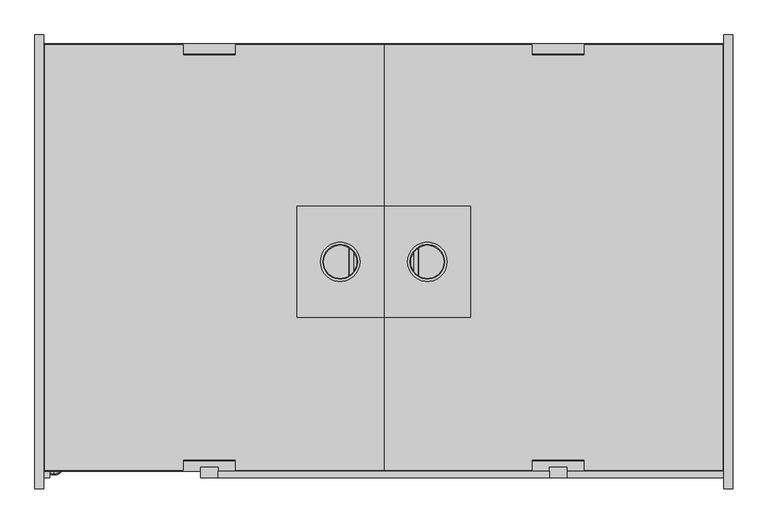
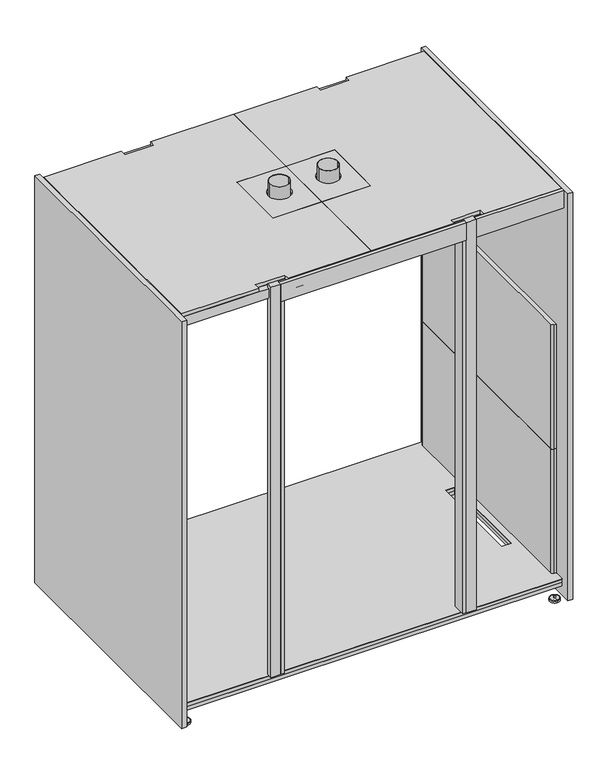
"""IFC4 building model written with IfcOpenShell, lengths in millimetres: furniture geometry, Mobiliário_Mobiliário de Escritório_Cabine Acústica 02 Pessoas - CT 02 PM FV_Marelli : Mobiliário_Mobiliário de Escritório_Cabine Acústica 02 Pessoas - CT 02 PM FV_Marelli."""

from ifc_helpers import new_model, si_unit, point, frame, frame_2d, origin, place, context, project, spatial, polyline, circle_curve, ellipse_curve, trimmed, segment, composite_curve, outline, extrude, faceted_brep, source, transform, mapped, element, save
from ifc_brep_helpers import plane_surface, cylinder_surface, revolved_surface, advanced_brep


def furniture_7d49e289(model_context):
    return source(origin(), model_context, "Body", "SolidModel", [
        extrude(outline(polyline([(525.0, 50.0), (1475.0, 50.0), (1475.0, 32.0), (525.0, 32.0), (525.0, 50.0)])), frame((0.0, 0.0, 2128.5), z_axis=(0.0, 0.0, 1.0), x_axis=(1.0, 0.0, 0.0)), (0.0, 0.0, 1.0), 96.0),
        extrude(outline(polyline([(975.0, 945.0), (975.0, 915.0), (25.0, 915.0), (25.0, 945.0), (975.0, 945.0)])), frame((0.0, 0.0, 2156.5), z_axis=(0.0, 0.0, 1.0), x_axis=(1.0, 0.0, 0.0)), (0.0, 0.0, 1.0), 50.0),
        extrude(outline(polyline([(1945.0, 410.0), (1945.0, 380.0), (25.0, 380.0), (25.0, 410.0), (1945.0, 410.0)])), frame((0.0, 0.0, 2156.5), z_axis=(0.0, 0.0, 1.0), x_axis=(1.0, 0.0, 0.0)), (0.0, 0.0, 1.0), 50.0),
        extrude(outline(polyline([(43.0, 32.0), (25.0, 32.0), (25.0, 102.0), (43.0, 102.0), (43.0, 32.0)])), frame((0.0, 0.0, 114.5), z_axis=(0.0, 0.0, 1.0), x_axis=(1.0, 0.0, 0.0)), (0.0, 0.0, 1.0), 2014.0),
        extrude(outline(polyline([(475.0, 32.0), (475.0, 62.0), (525.0, 62.0), (525.0, 32.0), (475.0, 32.0)])), frame((0.0, 0.0, 114.5), z_axis=(0.0, 0.0, 1.0), x_axis=(1.0, 0.0, 0.0)), (0.0, 0.0, 1.0), 2110.0),
        extrude(outline(polyline([(1525.0, 32.0), (1475.0, 32.0), (1475.0, 62.0), (1525.0, 62.0), (1525.0, 32.0)])), frame((0.0, 0.0, 114.5), z_axis=(0.0, 0.0, 1.0), x_axis=(1.0, 0.0, 0.0)), (0.0, 0.0, 1.0), 2110.0),
        extrude(outline(composite_curve([segment(polyline([(25.0, 102.0), (25.0, 1275.0), (45.5304331, 1254.4695669)]), True, "CONTINUOUS"), segment(trimmed(circle_curve(frame_2d((43.1599032, 1251.4457873)), 3.84222), [point((45.5304331, 1254.4695669))], [point((47.0, 1251.3180705))], False, "CARTESIAN"), True, "CONTINUOUS"), segment(polyline([(47.0, 1251.3180705), (47.0, 1249.6361409), (47.0, 113.0)]), True, "CONTINUOUS"), segment(trimmed(circle_curve(frame_2d((36.0, 113.0)), 11.0), [point((47.0, 113.0))], [point((36.0, 102.0))], False, "CARTESIAN"), True, "CONTINUOUS"), segment(polyline([(36.0, 102.0), (25.0, 102.0)]), True, "CONTINUOUS")], self_intersect=False)), frame((0.0, 0.0, 1459.7), z_axis=(0.0, 0.0, 1.0), x_axis=(1.0, 0.0, 0.0)), (0.0, 0.0, 1.0), 671.8),
        extrude(outline(composite_curve([segment(polyline([(25.0, 102.0), (25.0, 1275.0), (45.5304331, 1254.4695669)]), True, "CONTINUOUS"), segment(trimmed(circle_curve(frame_2d((43.1599032, 1251.4457873)), 3.84222), [point((45.5304331, 1254.4695669))], [point((47.0, 1251.3180705))], False, "CARTESIAN"), True, "CONTINUOUS"), segment(polyline([(47.0, 1251.3180705), (47.0, 113.0)]), True, "CONTINUOUS"), segment(trimmed(circle_curve(frame_2d((36.0, 113.0)), 11.0), [point((47.0, 113.0))], [point((36.0, 102.0))], False, "CARTESIAN"), True, "CONTINUOUS"), segment(polyline([(36.0, 102.0), (25.0, 102.0)]), True, "CONTINUOUS")], self_intersect=False)), frame((0.0, 0.0, 787.1), z_axis=(0.0, 0.0, 1.0), x_axis=(1.0, 0.0, 0.0)), (0.0, 0.0, 1.0), 671.0),
        extrude(outline(composite_curve([segment(polyline([(1975.0, 102.0), (1964.0, 102.0)]), True, "CONTINUOUS"), segment(trimmed(circle_curve(frame_2d((1964.0, 113.0)), 11.0), [point((1964.0, 102.0))], [point((1953.0, 113.0))], False, "CARTESIAN"), True, "CONTINUOUS"), segment(polyline([(1953.0, 113.0), (1953.0, 1251.3180705)]), True, "CONTINUOUS"), segment(trimmed(circle_curve(frame_2d((1956.8400968, 1251.4457873)), 3.84222), [point((1953.0, 1251.3180705))], [point((1954.4695669, 1254.4695669))], False, "CARTESIAN"), True, "CONTINUOUS"), segment(polyline([(1954.4695669, 1254.4695669), (1975.0, 1275.0), (1975.0, 102.0)]), True, "CONTINUOUS")], self_intersect=False)), frame((0.0, 0.0, 787.1), z_axis=(0.0, 0.0, 1.0), x_axis=(1.0, 0.0, 0.0)), (0.0, 0.0, 1.0), 671.0),
        extrude(outline(composite_curve([segment(polyline([(1975.0, 102.0), (1964.0, 102.0)]), True, "CONTINUOUS"), segment(trimmed(circle_curve(frame_2d((1964.0, 113.0)), 11.0), [point((1964.0, 102.0))], [point((1953.0, 113.0))], False, "CARTESIAN"), True, "CONTINUOUS"), segment(polyline([(1953.0, 113.0), (1953.0, 1251.3180705)]), True, "CONTINUOUS"), segment(trimmed(circle_curve(frame_2d((1956.8400968, 1251.4457873)), 3.84222), [point((1953.0, 1251.3180705))], [point((1954.4695669, 1254.4695669))], False, "CARTESIAN"), True, "CONTINUOUS"), segment(polyline([(1954.4695669, 1254.4695669), (1975.0, 1275.0), (1975.0, 102.0)]), True, "CONTINUOUS")], self_intersect=False)), frame((0.0, 0.0, 113.5), z_axis=(0.0, 0.0, 1.0), x_axis=(1.0, 0.0, 0.0)), (0.0, 0.0, 1.0), 672.0),
        extrude(outline(polyline([(575.0, 53.0), (575.0, 83.0), (425.0, 83.0), (425.0, 53.0), (28.0, 53.0), (28.0, 1272.0), (425.0, 1272.0), (425.0, 1242.0), (575.0, 1242.0), (575.0, 1272.0), (1000.0, 1272.0), (1000.0, 810.0), (750.0, 810.0), (750.0, 490.0), (1000.0, 490.0), (1000.0, 53.0), (575.0, 53.0)])), frame((0.0, 0.0, 2206.5), z_axis=(0.0, 0.0, 1.0), x_axis=(1.0, 0.0, 0.0)), (0.0, 0.0, 1.0), 18.0),
        extrude(outline(polyline([(1000.0, 810.0), (1000.0, 490.0), (750.0, 490.0), (750.0, 810.0), (1000.0, 810.0)]), holes=[composite_curve([segment(trimmed(circle_curve(frame_2d((875.0, 650.0)), 56.55), [point((818.45, 650.0))], [point((931.55, 650.0))], True, "CARTESIAN"), True, "CONTINUOUS"), segment(trimmed(circle_curve(frame_2d((875.0, 650.0)), 56.55), [point((931.55, 650.0))], [point((818.45, 650.0))], True, "CARTESIAN"), True, "CONTINUOUS")], self_intersect=False)]), frame((0.0, 0.0, 2206.5), z_axis=(0.0, 0.0, 1.0), x_axis=(1.0, 0.0, 0.0)), (0.0, 0.0, 1.0), 18.0),
        extrude(outline(composite_curve([segment(trimmed(circle_curve(frame_2d((875.0, 650.0)), 78.05), [point((796.95, 650.0))], [point((953.05, 650.0))], False, "CARTESIAN"), True, "CONTINUOUS"), segment(trimmed(circle_curve(frame_2d((875.0, 650.0)), 78.05), [point((953.05, 650.0))], [point((796.95, 650.0))], False, "CARTESIAN"), True, "CONTINUOUS")], self_intersect=False), holes=[composite_curve([segment(trimmed(circle_curve(frame_2d((875.0, 650.0)), 47.3), [point((827.7, 650.0))], [point((922.3, 650.0))], True, "CARTESIAN"), True, "CONTINUOUS"), segment(trimmed(circle_curve(frame_2d((875.0, 650.0)), 47.3), [point((922.3, 650.0))], [point((827.7, 650.0))], True, "CARTESIAN"), True, "CONTINUOUS")], self_intersect=False)]), frame((0.0, 0.0, 2202.9), z_axis=(0.0, 0.0, 1.0), x_axis=(1.0, 0.0, 0.0)), (0.0, 0.0, 1.0), 3.6),
        extrude(outline(composite_curve([segment(trimmed(circle_curve(frame_2d((875.0, 650.0)), 49.25), [point((825.75, 650.0))], [point((924.25, 650.0))], False, "CARTESIAN"), True, "CONTINUOUS"), segment(trimmed(circle_curve(frame_2d((875.0, 650.0)), 49.25), [point((924.25, 650.0))], [point((825.75, 650.0))], False, "CARTESIAN"), True, "CONTINUOUS")], self_intersect=False), holes=[composite_curve([segment(trimmed(circle_curve(frame_2d((875.0, 650.0)), 47.3), [point((922.3, 650.0))], [point((827.7, 650.0))], True, "CARTESIAN"), True, "CONTINUOUS"), segment(trimmed(circle_curve(frame_2d((875.0, 650.0)), 47.3), [point((827.7, 650.0))], [point((922.3, 650.0))], True, "CARTESIAN"), True, "CONTINUOUS")], self_intersect=False)]), frame((0.0, 0.0, 2206.5), z_axis=(0.0, 0.0, 1.0), x_axis=(1.0, 0.0, 0.0)), (0.0, 0.0, 1.0), 80.0),
        extrude(outline(composite_curve([segment(polyline([(1252.9978767, 2109.5), (124.0, 2109.5)]), True, "CONTINUOUS"), segment(trimmed(circle_curve(frame_2d((124.0, 2131.5)), 22.0), [point((124.0, 2109.5))], [point((102.0, 2131.5))], False, "CARTESIAN"), True, "CONTINUOUS"), segment(polyline([(102.0, 2131.5), (1252.9978767, 2131.5), (1252.9978767, 2109.5)]), True, "CONTINUOUS")], self_intersect=False)), frame((47.0, 0.0, 0.0), z_axis=(1.0, 0.0, 0.0), x_axis=(0.0, 1.0, 0.0)), (0.0, 0.0, 1.0), 635.333),
        extrude(outline(composite_curve([segment(trimmed(circle_curve(frame_2d((556.9631087, 706.9631087)), 3.0368913), [point((556.9631087, 710.0))], [point((560.0, 706.9631087))], False, "CARTESIAN"), True, "CONTINUOUS"), segment(polyline([(560.0, 706.9631087), (560.0, 593.0368913)]), True, "CONTINUOUS"), segment(trimmed(circle_curve(frame_2d((556.9631087, 593.0368913)), 3.0368913), [point((560.0, 593.0368913))], [point((556.9631087, 590.0))], False, "CARTESIAN"), True, "CONTINUOUS"), segment(polyline([(556.9631087, 590.0), (443.0368913, 590.0)]), True, "CONTINUOUS"), segment(trimmed(circle_curve(frame_2d((443.0368913, 593.0368913)), 3.0368913), [point((443.0368913, 590.0))], [point((440.0, 593.0368913))], False, "CARTESIAN"), True, "CONTINUOUS"), segment(polyline([(440.0, 593.0368913), (440.0, 706.9631087)]), True, "CONTINUOUS"), segment(trimmed(circle_curve(frame_2d((443.0368913, 706.9631087)), 3.0368913), [point((440.0, 706.9631087))], [point((443.0368913, 710.0))], False, "CARTESIAN"), True, "CONTINUOUS"), segment(polyline([(443.0368913, 710.0), (556.9631087, 710.0)]), True, "CONTINUOUS")], self_intersect=False), holes=[composite_curve([segment(polyline([(496.0, 700.0), (496.0, 600.0)]), True, "CONTINUOUS"), segment(trimmed(circle_curve(frame_2d((500.0, 600.0)), 4.0), [point((496.0, 600.0))], [point((504.0, 600.0))], True, "CARTESIAN"), True, "CONTINUOUS"), segment(polyline([(504.0, 600.0), (504.0, 700.0)]), True, "CONTINUOUS"), segment(trimmed(circle_curve(frame_2d((500.0, 700.0)), 4.0), [point((504.0, 700.0))], [point((496.0, 700.0))], True, "CARTESIAN"), True, "CONTINUOUS")], self_intersect=False), composite_curve([segment(polyline([(480.0, 690.0), (480.0, 610.0)]), True, "CONTINUOUS"), segment(trimmed(circle_curve(frame_2d((484.0, 610.0)), 4.0), [point((480.0, 610.0))], [point((488.0, 610.0))], True, "CARTESIAN"), True, "CONTINUOUS"), segment(polyline([(488.0, 610.0), (488.0, 690.0)]), True, "CONTINUOUS"), segment(trimmed(circle_curve(frame_2d((484.0, 690.0)), 4.0), [point((488.0, 690.0))], [point((480.0, 690.0))], True, "CARTESIAN"), True, "CONTINUOUS")], self_intersect=False), composite_curve([segment(polyline([(464.0, 680.0), (464.0, 620.0)]), True, "CONTINUOUS"), segment(trimmed(circle_curve(frame_2d((468.0, 620.0)), 4.0), [point((464.0, 620.0))], [point((472.0, 620.0))], True, "CARTESIAN"), True, "CONTINUOUS"), segment(polyline([(472.0, 620.0), (472.0, 680.0)]), True, "CONTINUOUS"), segment(trimmed(circle_curve(frame_2d((468.0, 680.0)), 4.0), [point((472.0, 680.0))], [point((464.0, 680.0))], True, "CARTESIAN"), True, "CONTINUOUS")], self_intersect=False), composite_curve([segment(polyline([(448.0, 670.0), (448.0, 630.0)]), True, "CONTINUOUS"), segment(trimmed(circle_curve(frame_2d((452.0, 630.0)), 4.0), [point((448.0, 630.0))], [point((456.0, 630.0))], True, "CARTESIAN"), True, "CONTINUOUS"), segment(polyline([(456.0, 630.0), (456.0, 670.0)]), True, "CONTINUOUS"), segment(trimmed(circle_curve(frame_2d((452.0, 670.0)), 4.0), [point((456.0, 670.0))], [point((448.0, 670.0))], True, "CARTESIAN"), True, "CONTINUOUS")], self_intersect=False), composite_curve([segment(trimmed(circle_curve(frame_2d((516.0, 690.0)), 4.0), [point((520.0, 690.0))], [point((512.0, 690.0))], True, "CARTESIAN"), True, "CONTINUOUS"), segment(polyline([(512.0, 690.0), (512.0, 610.0)]), True, "CONTINUOUS"), segment(trimmed(circle_curve(frame_2d((516.0, 610.0)), 4.0), [point((512.0, 610.0))], [point((520.0, 610.0))], True, "CARTESIAN"), True, "CONTINUOUS"), segment(polyline([(520.0, 610.0), (520.0, 690.0)]), True, "CONTINUOUS")], self_intersect=False), composite_curve([segment(trimmed(circle_curve(frame_2d((532.0, 680.0)), 4.0), [point((536.0, 680.0))], [point((528.0, 680.0))], True, "CARTESIAN"), True, "CONTINUOUS"), segment(polyline([(528.0, 680.0), (528.0, 620.0)]), True, "CONTINUOUS"), segment(trimmed(circle_curve(frame_2d((532.0, 620.0)), 4.0), [point((528.0, 620.0))], [point((536.0, 620.0))], True, "CARTESIAN"), True, "CONTINUOUS"), segment(polyline([(536.0, 620.0), (536.0, 680.0)]), True, "CONTINUOUS")], self_intersect=False), composite_curve([segment(trimmed(circle_curve(frame_2d((548.0, 670.0)), 4.0), [point((552.0, 670.0))], [point((544.0, 670.0))], True, "CARTESIAN"), True, "CONTINUOUS"), segment(polyline([(544.0, 670.0), (544.0, 630.0)]), True, "CONTINUOUS"), segment(trimmed(circle_curve(frame_2d((548.0, 630.0)), 4.0), [point((544.0, 630.0))], [point((552.0, 630.0))], True, "CARTESIAN"), True, "CONTINUOUS"), segment(polyline([(552.0, 630.0), (552.0, 670.0)]), True, "CONTINUOUS")], self_intersect=False)]), frame((0.0, 0.0, 2107.4845827), z_axis=(0.0, 0.0, 1.0), x_axis=(1.0, 0.0, 0.0)), (0.0, 0.0, 1.0), 2.0154173),
        extrude(outline(polyline([(1975.0, 1275.0), (1975.0, 50.0), (25.0, 50.0), (25.0, 1275.0), (1975.0, 1275.0)]), holes=[polyline([(83.95, 900.0), (83.95, 400.0), (131.05, 400.0), (131.05, 900.0), (83.95, 900.0)]), polyline([(1916.05, 400.0), (1916.05, 900.0), (1868.95, 900.0), (1868.95, 400.0), (1916.05, 400.0)])]), frame((0.0, 0.0, 74.5), z_axis=(0.0, 0.0, 1.0), x_axis=(1.0, 0.0, 0.0)), (0.0, 0.0, 1.0), 18.0),
        advanced_brep(
        [(1945.0, 65.0, 0.0), (1945.0, 40.0, 0.0), (1945.0, 90.0, 0.0), (1945.0, 87.4638086, 12.5), (1945.0, 42.5361914, 12.5), (1945.0, 65.0, 12.5), (1945.0, 90.0, 9.9638086), (1945.0, 40.0, 9.9638086)],
        [
            (0, 1),
            (1, 2, circle_curve(frame((1945.0, 65.0, 0.0), z_axis=(0.0, 0.0, -1.0), x_axis=(0.0, -1.0, 0.0)), 25.0)),
            (2, 0),
            (2, 1, circle_curve(frame((1945.0, 65.0, 0.0), z_axis=(0.0, 0.0, -1.0), x_axis=(0.0, -1.0, 0.0)), 25.0)),
            (3, 4, circle_curve(frame((1945.0, 65.0, 12.5), z_axis=(0.0, 0.0, 1.0), x_axis=(0.0, -1.0, 0.0)), 22.4638086)),
            (4, 5),
            (5, 3),
            (4, 3, circle_curve(frame((1945.0, 65.0, 12.5), z_axis=(0.0, 0.0, 1.0), x_axis=(0.0, -1.0, 0.0)), 22.4638086)),
            (6, 7, circle_curve(frame((1945.0, 65.0, 9.9638086), z_axis=(0.0, 0.0, 1.0), x_axis=(0.0, -1.0, 0.0)), 25.0)),
            (7, 4, circle_curve(frame((1945.0, 42.5361914, 9.9638086), z_axis=(-1.0, 0.0, 0.0), x_axis=(0.0, 1.0, 0.0)), 2.5361914)),
            (3, 6, circle_curve(frame((1945.0, 87.4638086, 9.9638086), z_axis=(-1.0, 0.0, 0.0), x_axis=(0.0, -1.0, 0.0)), 2.5361914)),
            (7, 6, circle_curve(frame((1945.0, 65.0, 9.9638086), z_axis=(0.0, 0.0, 1.0), x_axis=(0.0, -1.0, 0.0)), 25.0)),
            (1, 7),
            (6, 2),
        ],
        [
            plane_surface(frame((1945.0, 65.0, 0.0), z_axis=(0.0, 0.0, -1.0), x_axis=(0.0, -1.0, 0.0))),
            plane_surface(frame((1945.0, 65.0, 12.5), z_axis=(0.0, 0.0, 1.0), x_axis=(0.0, -1.0, 0.0))),
            revolved_surface(trimmed(ellipse_curve(frame((1945.0, 42.5361914, 9.9638086), z_axis=(1.0, 0.0, 0.0), x_axis=(0.0, 1.0, 0.0)), 2.5361914, 2.5361914), [point((1945.0, 42.5361914, 12.5))], [point((1945.0, 40.0, 9.9638086))], True, "CARTESIAN"), (1945.0, 65.0, 15.0), (0.0, 0.0, -1.0)),
            cylinder_surface(frame((1945.0, 65.0, 15.0), z_axis=(0.0, 0.0, -1.0), x_axis=(0.0, -1.0, 0.0)), 25.0),
        ],
        [
            (0, [[1, 2, 3]]),
            (0, [[-3, 4, -1]]),
            (1, [[5, 6, 7]]),
            (1, [[8, -7, -6]]),
            (2, [[9, 10, -5, 11]]),
            (2, [[12, -11, -8, -10]]),
            (3, [[-2, 13, -9, 14]]),
            (3, [[-4, -14, -12, -13]]),
        ],
    ),
        extrude(outline(composite_curve([segment(trimmed(circle_curve(frame_2d((1945.0, 65.0)), 5.0), [point((1940.0, 65.0))], [point((1950.0, 65.0))], False, "CARTESIAN"), True, "CONTINUOUS"), segment(trimmed(circle_curve(frame_2d((1945.0, 65.0)), 5.0), [point((1950.0, 65.0))], [point((1940.0, 65.0))], False, "CARTESIAN"), True, "CONTINUOUS")], self_intersect=False)), frame((0.0, 0.0, 12.5), z_axis=(0.0, 0.0, 1.0), x_axis=(1.0, 0.0, 0.0)), (0.0, 0.0, 1.0), 12.0),
        advanced_brep(
        [(55.0, 90.0, 0.0), (55.0, 40.0, 0.0), (55.0, 65.0, 0.0), (55.0, 65.0, 12.5), (55.0, 42.5361914, 12.5), (55.0, 87.4638086, 12.5), (55.0, 40.0, 9.9638086), (55.0, 90.0, 9.9638086)],
        [
            (0, 1, circle_curve(frame((55.0, 65.0, 0.0), z_axis=(0.0, 0.0, -1.0), x_axis=(0.0, -1.0, 0.0)), 25.0)),
            (1, 2),
            (2, 0),
            (1, 0, circle_curve(frame((55.0, 65.0, 0.0), z_axis=(0.0, 0.0, -1.0), x_axis=(0.0, -1.0, 0.0)), 25.0)),
            (3, 4),
            (4, 5, circle_curve(frame((55.0, 65.0, 12.5), z_axis=(0.0, 0.0, 1.0), x_axis=(0.0, -1.0, 0.0)), 22.4638086)),
            (5, 3),
            (5, 4, circle_curve(frame((55.0, 65.0, 12.5), z_axis=(0.0, 0.0, 1.0), x_axis=(0.0, -1.0, 0.0)), 22.4638086)),
            (4, 6, circle_curve(frame((55.0, 42.5361914, 9.9638086), z_axis=(1.0, 0.0, 0.0), x_axis=(0.0, 1.0, 0.0)), 2.5361914)),
            (6, 7, circle_curve(frame((55.0, 65.0, 9.9638086), z_axis=(0.0, 0.0, 1.0), x_axis=(0.0, -1.0, 0.0)), 25.0)),
            (7, 5, circle_curve(frame((55.0, 87.4638086, 9.9638086), z_axis=(1.0, 0.0, 0.0), x_axis=(0.0, -1.0, 0.0)), 2.5361914)),
            (7, 6, circle_curve(frame((55.0, 65.0, 9.9638086), z_axis=(0.0, 0.0, 1.0), x_axis=(0.0, -1.0, 0.0)), 25.0)),
            (6, 1),
            (0, 7),
        ],
        [
            plane_surface(frame((55.0, 65.0, 0.0), z_axis=(0.0, 0.0, -1.0), x_axis=(0.0, -1.0, 0.0))),
            plane_surface(frame((55.0, 65.0, 12.5), z_axis=(0.0, 0.0, 1.0), x_axis=(0.0, -1.0, 0.0))),
            revolved_surface(trimmed(ellipse_curve(frame((55.0, 42.5361914, 9.9638086), z_axis=(-1.0, 0.0, 0.0), x_axis=(0.0, 1.0, 0.0)), 2.5361914, 2.5361914), [point((55.0, 40.0, 9.9638086))], [point((55.0, 42.5361914, 12.5))], True, "CARTESIAN"), (55.0, 65.0, 15.0), (0.0, 0.0, 1.0)),
            cylinder_surface(frame((55.0, 65.0, 15.0), z_axis=(0.0, 0.0, 1.0), x_axis=(0.0, -1.0, 0.0)), 25.0),
        ],
        [
            (0, [[1, 2, 3]]),
            (0, [[4, -3, -2]]),
            (1, [[5, 6, 7]]),
            (1, [[-7, 8, -5]]),
            (2, [[-6, 9, 10, 11]]),
            (2, [[-8, -11, 12, -9]]),
            (3, [[-10, 13, -1, 14]]),
            (3, [[-12, -14, -4, -13]]),
        ],
    ),
        extrude(outline(composite_curve([segment(trimmed(circle_curve(frame_2d((55.0, 65.0)), 5.0), [point((60.0, 65.0))], [point((50.0, 65.0))], False, "CARTESIAN"), True, "CONTINUOUS"), segment(trimmed(circle_curve(frame_2d((55.0, 65.0)), 5.0), [point((50.0, 65.0))], [point((60.0, 65.0))], False, "CARTESIAN"), True, "CONTINUOUS")], self_intersect=False)), frame((0.0, 0.0, 12.5), z_axis=(0.0, 0.0, 1.0), x_axis=(1.0, 0.0, 0.0)), (0.0, 0.0, 1.0), 12.0),
        advanced_brep(
        [(1945.0, 1210.0, 0.0), (1945.0, 1260.0, 0.0), (1945.0, 1235.0, 0.0), (1945.0, 1235.0, 12.5), (1945.0, 1257.4638086, 12.5), (1945.0, 1212.5361914, 12.5), (1945.0, 1260.0, 9.9638086), (1945.0, 1210.0, 9.9638086)],
        [
            (0, 1, circle_curve(frame((1945.0, 1235.0, 0.0), z_axis=(0.0, 0.0, -1.0), x_axis=(0.0, 1.0, 0.0)), 25.0)),
            (1, 2),
            (2, 0),
            (1, 0, circle_curve(frame((1945.0, 1235.0, 0.0), z_axis=(0.0, 0.0, -1.0), x_axis=(0.0, 1.0, 0.0)), 25.0)),
            (3, 4),
            (4, 5, circle_curve(frame((1945.0, 1235.0, 12.5), z_axis=(0.0, 0.0, 1.0), x_axis=(0.0, 1.0, 0.0)), 22.4638086)),
            (5, 3),
            (5, 4, circle_curve(frame((1945.0, 1235.0, 12.5), z_axis=(0.0, 0.0, 1.0), x_axis=(0.0, 1.0, 0.0)), 22.4638086)),
            (4, 6, circle_curve(frame((1945.0, 1257.4638086, 9.9638086), z_axis=(-1.0, 0.0, 0.0), x_axis=(0.0, -1.0, 0.0)), 2.5361914)),
            (6, 7, circle_curve(frame((1945.0, 1235.0, 9.9638086), z_axis=(0.0, 0.0, 1.0), x_axis=(0.0, 1.0, 0.0)), 25.0)),
            (7, 5, circle_curve(frame((1945.0, 1212.5361914, 9.9638086), z_axis=(-1.0, 0.0, 0.0), x_axis=(0.0, 1.0, 0.0)), 2.5361914)),
            (7, 6, circle_curve(frame((1945.0, 1235.0, 9.9638086), z_axis=(0.0, 0.0, 1.0), x_axis=(0.0, 1.0, 0.0)), 25.0)),
            (6, 1),
            (0, 7),
        ],
        [
            plane_surface(frame((1945.0, 1235.0, 0.0), z_axis=(0.0, 0.0, -1.0), x_axis=(0.0, 1.0, 0.0))),
            plane_surface(frame((1945.0, 1235.0, 12.5), z_axis=(0.0, 0.0, 1.0), x_axis=(0.0, 1.0, 0.0))),
            revolved_surface(trimmed(ellipse_curve(frame((1945.0, 1257.4638086, 9.9638086), z_axis=(1.0, 0.0, 0.0), x_axis=(0.0, -1.0, 0.0)), 2.5361914, 2.5361914), [point((1945.0, 1260.0, 9.9638086))], [point((1945.0, 1257.4638086, 12.5))], True, "CARTESIAN"), (1945.0, 1235.0, 15.0), (0.0, 0.0, 1.0)),
            cylinder_surface(frame((1945.0, 1235.0, 15.0), z_axis=(0.0, 0.0, 1.0), x_axis=(0.0, 1.0, 0.0)), 25.0),
        ],
        [
            (0, [[1, 2, 3]]),
            (0, [[4, -3, -2]]),
            (1, [[5, 6, 7]]),
            (1, [[-7, 8, -5]]),
            (2, [[-6, 9, 10, 11]]),
            (2, [[-8, -11, 12, -9]]),
            (3, [[-10, 13, -1, 14]]),
            (3, [[-12, -14, -4, -13]]),
        ],
    ),
        extrude(outline(composite_curve([segment(trimmed(circle_curve(frame_2d((1945.0, 1235.0)), 5.0), [point((1940.0, 1235.0))], [point((1950.0, 1235.0))], False, "CARTESIAN"), True, "CONTINUOUS"), segment(trimmed(circle_curve(frame_2d((1945.0, 1235.0)), 5.0), [point((1950.0, 1235.0))], [point((1940.0, 1235.0))], False, "CARTESIAN"), True, "CONTINUOUS")], self_intersect=False)), frame((0.0, 0.0, 12.5), z_axis=(0.0, 0.0, 1.0), x_axis=(1.0, 0.0, 0.0)), (0.0, 0.0, 1.0), 12.0),
        advanced_brep(
        [(55.0, 1235.0, 0.0), (55.0, 1260.0, 0.0), (55.0, 1210.0, 0.0), (55.0, 1212.5361914, 12.5), (55.0, 1257.4638086, 12.5), (55.0, 1235.0, 12.5), (55.0, 1210.0, 9.9638086), (55.0, 1260.0, 9.9638086)],
        [
            (0, 1),
            (1, 2, circle_curve(frame((55.0, 1235.0, 0.0), z_axis=(0.0, 0.0, -1.0), x_axis=(0.0, 1.0, 0.0)), 25.0)),
            (2, 0),
            (2, 1, circle_curve(frame((55.0, 1235.0, 0.0), z_axis=(0.0, 0.0, -1.0), x_axis=(0.0, 1.0, 0.0)), 25.0)),
            (3, 4, circle_curve(frame((55.0, 1235.0, 12.5), z_axis=(0.0, 0.0, 1.0), x_axis=(0.0, 1.0, 0.0)), 22.4638086)),
            (4, 5),
            (5, 3),
            (4, 3, circle_curve(frame((55.0, 1235.0, 12.5), z_axis=(0.0, 0.0, 1.0), x_axis=(0.0, 1.0, 0.0)), 22.4638086)),
            (6, 7, circle_curve(frame((55.0, 1235.0, 9.9638086), z_axis=(0.0, 0.0, 1.0), x_axis=(0.0, 1.0, 0.0)), 25.0)),
            (7, 4, circle_curve(frame((55.0, 1257.4638086, 9.9638086), z_axis=(1.0, 0.0, 0.0), x_axis=(0.0, -1.0, 0.0)), 2.5361914)),
            (3, 6, circle_curve(frame((55.0, 1212.5361914, 9.9638086), z_axis=(1.0, 0.0, 0.0), x_axis=(0.0, 1.0, 0.0)), 2.5361914)),
            (7, 6, circle_curve(frame((55.0, 1235.0, 9.9638086), z_axis=(0.0, 0.0, 1.0), x_axis=(0.0, 1.0, 0.0)), 25.0)),
            (1, 7),
            (6, 2),
        ],
        [
            plane_surface(frame((55.0, 1235.0, 0.0), z_axis=(0.0, 0.0, -1.0), x_axis=(0.0, 1.0, 0.0))),
            plane_surface(frame((55.0, 1235.0, 12.5), z_axis=(0.0, 0.0, 1.0), x_axis=(0.0, 1.0, 0.0))),
            revolved_surface(trimmed(ellipse_curve(frame((55.0, 1257.4638086, 9.9638086), z_axis=(-1.0, 0.0, 0.0), x_axis=(0.0, -1.0, 0.0)), 2.5361914, 2.5361914), [point((55.0, 1257.4638086, 12.5))], [point((55.0, 1260.0, 9.9638086))], True, "CARTESIAN"), (55.0, 1235.0, 15.0), (0.0, 0.0, -1.0)),
            cylinder_surface(frame((55.0, 1235.0, 15.0), z_axis=(0.0, 0.0, -1.0), x_axis=(0.0, 1.0, 0.0)), 25.0),
        ],
        [
            (0, [[1, 2, 3]]),
            (0, [[-3, 4, -1]]),
            (1, [[5, 6, 7]]),
            (1, [[8, -7, -6]]),
            (2, [[9, 10, -5, 11]]),
            (2, [[12, -11, -8, -10]]),
            (3, [[-2, 13, -9, 14]]),
            (3, [[-4, -14, -12, -13]]),
        ],
    ),
        extrude(outline(composite_curve([segment(trimmed(circle_curve(frame_2d((55.0, 1235.0)), 5.0), [point((60.0, 1235.0))], [point((50.0, 1235.0))], False, "CARTESIAN"), True, "CONTINUOUS"), segment(trimmed(circle_curve(frame_2d((55.0, 1235.0)), 5.0), [point((50.0, 1235.0))], [point((60.0, 1235.0))], False, "CARTESIAN"), True, "CONTINUOUS")], self_intersect=False)), frame((0.0, 0.0, 12.5), z_axis=(0.0, 0.0, 1.0), x_axis=(1.0, 0.0, 0.0)), (0.0, 0.0, 1.0), 12.0),
        faceted_brep([(1100.0, 750.0, 2073.5), (1100.0, 750.0, 2109.5), (1100.0, 550.0, 2109.5), (1100.0, 550.0, 2073.5), (1080.5, 730.5, 2075.4509584), (1080.5, 730.5, 2073.5), (1080.5, 569.5, 2073.5), (1080.5, 569.5, 2075.4509584), (1098.0292937, 748.0292937, 2109.5), (1098.0292937, 748.0292937, 2075.4509584), (1098.0292937, 551.9707063, 2075.4509584), (1098.0292937, 551.9707063, 2109.5), (900.0, 550.0, 2109.5), (900.0, 550.0, 2073.5), (919.5, 569.5, 2073.5), (919.5, 569.5, 2075.4509584), (901.9707063, 551.9707063, 2075.4509584), (901.9707063, 551.9707063, 2109.5), (900.0, 750.0, 2109.5), (900.0, 750.0, 2073.5), (919.5, 730.5, 2073.5), (919.5, 730.5, 2075.4509584), (901.9707063, 748.0292937, 2075.4509584), (901.9707063, 748.0292937, 2109.5)], [[[0, 1, 2, 3]], [[4, 5, 6, 7]], [[8, 9, 10, 11]], [[3, 2, 12, 13]], [[7, 6, 14, 15]], [[11, 10, 16, 17]], [[13, 12, 18, 19]], [[15, 14, 20, 21]], [[17, 16, 22, 23]], [[19, 18, 1, 0]], [[3, 13, 19, 0], [5, 20, 14, 6]], [[21, 20, 5, 4]], [[9, 22, 16, 10], [7, 15, 21, 4]], [[23, 22, 9, 8]], [[1, 18, 12, 2], [11, 17, 23, 8]]]),
        extrude(outline(polyline([(1085.0, 735.0), (1085.0, 565.0), (915.0, 565.0), (915.0, 735.0), (1085.0, 735.0)])), frame((0.0, 0.0, 2075.4509584), z_axis=(0.0, 0.0, 1.0), x_axis=(1.0, 0.0, 0.0)), (0.0, 0.0, 1.0), 2.9763056),
        extrude(outline(polyline([(25.0, 0.0), (0.0, 0.0), (0.0, 1300.0), (25.0, 1300.0), (25.0, 0.0)])), frame((0.0, 0.0, 24.5), z_axis=(0.0, 0.0, 1.0), x_axis=(1.0, 0.0, 0.0)), (0.0, 0.0, 1.0), 2200.0),
        extrude(outline(polyline([(2000.0, 0.0), (1975.0, 0.0), (1975.0, 1300.0), (2000.0, 1300.0), (2000.0, 0.0)])), frame((0.0, 0.0, 24.5), z_axis=(0.0, 0.0, 1.0), x_axis=(1.0, 0.0, 0.0)), (0.0, 0.0, 1.0), 2200.0),
        advanced_brep(
        [(47.0, 254.0, 1233.5), (47.0, 175.0, 1233.5), (48.015509, 175.0, 1233.5), (48.015509, 254.0, 1233.5), (47.0, 254.0, 1113.5), (48.015509, 254.0, 1113.5), (48.015509, 175.0, 1113.5), (47.0, 175.0, 1113.5), (51.4706585, 192.5, 1211.0), (51.4706585, 236.5, 1211.0), (51.4706585, 236.5, 1136.0), (51.4706585, 192.5, 1136.0), (48.015509, 236.5, 1211.0), (48.015509, 192.5, 1211.0), (48.015509, 192.5, 1136.0), (48.015509, 236.5, 1136.0)],
        [
            (0, 1),
            (1, 2),
            (2, 3, circle_curve(frame((-106.0027088, 214.5, 1233.5), z_axis=(0.0, 0.0, 1.0), x_axis=(1.0, 0.0, 0.0)), 159.0027088)),
            (3, 0),
            (4, 5),
            (5, 6, circle_curve(frame((-106.0027088, 214.5, 1113.5), z_axis=(0.0, 0.0, -1.0), x_axis=(1.0, 0.0, 0.0)), 159.0027088)),
            (6, 7),
            (7, 4),
            (0, 4),
            (7, 1),
            (6, 2),
            (5, 3),
            (8, 9, circle_curve(frame((-106.0027088, 214.5, 1211.0), z_axis=(0.0, 0.0, 1.0), x_axis=(1.0, 0.0, 0.0)), 159.0027088)),
            (9, 10),
            (10, 11, circle_curve(frame((-106.0027088, 214.5, 1136.0), z_axis=(0.0, 0.0, -1.0), x_axis=(1.0, 0.0, 0.0)), 159.0027088)),
            (11, 8),
            (12, 13),
            (13, 14),
            (14, 15),
            (15, 12),
            (12, 9),
            (8, 13),
            (11, 14),
            (10, 15),
        ],
        [
            plane_surface(frame((47.0, 175.0, 1233.5), z_axis=(0.0, 0.0, 1.0), x_axis=(0.0, -1.0, 0.0))),
            plane_surface(frame((47.0, 175.0, 1113.5), z_axis=(0.0, 0.0, -1.0), x_axis=(0.0, 1.0, 0.0))),
            plane_surface(frame((47.0, 254.0, 1233.5), z_axis=(-1.0, 0.0, 0.0), x_axis=(0.0, 0.0, -1.0))),
            plane_surface(frame((47.0, 175.0, 1233.5), z_axis=(0.0, -1.0, 0.0), x_axis=(0.0, 0.0, -1.0))),
            cylinder_surface(frame((-106.0027088, 214.5, 1113.5), z_axis=(0.0, 0.0, 1.0), x_axis=(1.0, 0.0, 0.0)), 159.0027088),
            plane_surface(frame((48.015509, 254.0, 1233.5), z_axis=(0.0, 1.0, 0.0), x_axis=(0.0, 0.0, -1.0))),
            plane_surface(frame((48.015509, 192.5, 1211.0), z_axis=(1.0, 0.0, 0.0), x_axis=(0.0, 1.0, 0.0))),
            plane_surface(frame((115.0, 236.5, 1211.0), z_axis=(0.0, 0.0, -1.0), x_axis=(-1.0, 0.0, 0.0))),
            plane_surface(frame((115.0, 192.5, 1211.0), z_axis=(0.0, 1.0, 0.0), x_axis=(-1.0, 0.0, 0.0))),
            plane_surface(frame((115.0, 192.5, 1136.0), z_axis=(0.0, 0.0, 1.0), x_axis=(-1.0, 0.0, 0.0))),
            plane_surface(frame((115.0, 236.5, 1136.0), z_axis=(0.0, -1.0, 0.0), x_axis=(-1.0, 0.0, 0.0))),
        ],
        [
            (0, [[1, 2, 3, 4]]),
            (1, [[5, 6, 7, 8]]),
            (2, [[-1, 9, -8, 10]]),
            (3, [[-2, -10, -7, 11]]),
            (4, [[-3, -11, -6, 12], [13, 14, 15, 16]]),
            (5, [[-4, -12, -5, -9]]),
            (6, [[17, 18, 19, 20]]),
            (7, [[-17, 21, -13, 22]]),
            (8, [[-18, -22, -16, 23]]),
            (9, [[-19, -23, -15, 24]]),
            (10, [[-20, -24, -14, -21]]),
        ],
    ),
        extrude(outline(polyline([(236.5, 1136.0), (192.5, 1136.0), (192.5, 1161.0), (236.5, 1161.0), (236.5, 1136.0)]), holes=[composite_curve([segment(trimmed(circle_curve(frame_2d((230.2939968, 1148.5)), 2.2060032), [point((231.76627, 1146.8571787))], [point((231.76627, 1150.1428213))], True, "CARTESIAN"), True, "CONTINUOUS"), segment(polyline([(231.76627, 1150.1428213), (225.2005604, 1156.7085309)]), True, "CONTINUOUS"), segment(trimmed(circle_curve(frame_2d((223.5077688, 1155.2939968)), 2.2060032), [point((225.2005604, 1156.7085309))], [point((223.5077688, 1157.5))], True, "CARTESIAN"), True, "CONTINUOUS"), segment(polyline([(223.5077688, 1157.5), (205.4922312, 1157.5)]), True, "CONTINUOUS"), segment(trimmed(circle_curve(frame_2d((205.4922312, 1155.2939968)), 2.2060032), [point((205.4922312, 1157.5))], [point((203.7994396, 1156.7085309))], True, "CARTESIAN"), True, "CONTINUOUS"), segment(polyline([(203.7994396, 1156.7085309), (197.23373, 1150.1428213)]), True, "CONTINUOUS"), segment(trimmed(circle_curve(frame_2d((198.7060032, 1148.5)), 2.2060032), [point((197.23373, 1150.1428213))], [point((197.23373, 1146.8571787))], True, "CARTESIAN"), True, "CONTINUOUS"), segment(polyline([(197.23373, 1146.8571787), (203.7994396, 1140.2914691)]), True, "CONTINUOUS"), segment(trimmed(circle_curve(frame_2d((205.4922312, 1141.7060032)), 2.2060032), [point((203.7994396, 1140.2914691))], [point((205.4922312, 1139.5))], True, "CARTESIAN"), True, "CONTINUOUS"), segment(polyline([(205.4922312, 1139.5), (223.5077688, 1139.5)]), True, "CONTINUOUS"), segment(trimmed(circle_curve(frame_2d((223.5077688, 1141.7060032)), 2.2060032), [point((223.5077688, 1139.5))], [point((225.2005604, 1140.2914691))], True, "CARTESIAN"), True, "CONTINUOUS"), segment(polyline([(225.2005604, 1140.2914691), (231.76627, 1146.8571787)]), True, "CONTINUOUS")], self_intersect=False)]), frame((48.015509, 0.0, 0.0), z_axis=(1.0, 0.0, 0.0), x_axis=(0.0, 1.0, 0.0)), (0.0, 0.0, 1.0), 4.984491),
        extrude(outline(polyline([(236.5, 1186.0), (236.5, 1161.0), (192.5, 1161.0), (192.5, 1186.0), (236.5, 1186.0)]), holes=[composite_curve([segment(polyline([(231.76627, 1175.1428213), (225.2005604, 1181.7085309)]), True, "CONTINUOUS"), segment(trimmed(circle_curve(frame_2d((223.5077688, 1180.2939968)), 2.2060032), [point((225.2005604, 1181.7085309))], [point((223.5077688, 1182.5))], True, "CARTESIAN"), True, "CONTINUOUS"), segment(polyline([(223.5077688, 1182.5), (205.4922312, 1182.5)]), True, "CONTINUOUS"), segment(trimmed(circle_curve(frame_2d((205.4922312, 1180.2939968)), 2.2060032), [point((205.4922312, 1182.5))], [point((203.7994396, 1181.7085309))], True, "CARTESIAN"), True, "CONTINUOUS"), segment(polyline([(203.7994396, 1181.7085309), (197.23373, 1175.1428213)]), True, "CONTINUOUS"), segment(trimmed(circle_curve(frame_2d((198.7060032, 1173.5)), 2.2060032), [point((197.23373, 1175.1428213))], [point((197.23373, 1171.8571787))], True, "CARTESIAN"), True, "CONTINUOUS"), segment(polyline([(197.23373, 1171.8571787), (203.7994396, 1165.2914691)]), True, "CONTINUOUS"), segment(trimmed(circle_curve(frame_2d((205.4922312, 1166.7060032)), 2.2060032), [point((203.7994396, 1165.2914691))], [point((205.4922312, 1164.5))], True, "CARTESIAN"), True, "CONTINUOUS"), segment(polyline([(205.4922312, 1164.5), (223.5077688, 1164.5)]), True, "CONTINUOUS"), segment(trimmed(circle_curve(frame_2d((223.5077688, 1166.7060032)), 2.2060032), [point((223.5077688, 1164.5))], [point((225.2005604, 1165.2914691))], True, "CARTESIAN"), True, "CONTINUOUS"), segment(polyline([(225.2005604, 1165.2914691), (231.76627, 1171.8571787)]), True, "CONTINUOUS"), segment(trimmed(circle_curve(frame_2d((230.2939968, 1173.5)), 2.2060032), [point((231.76627, 1171.8571787))], [point((231.76627, 1175.1428213))], True, "CARTESIAN"), True, "CONTINUOUS")], self_intersect=False)]), frame((48.015509, 0.0, 0.0), z_axis=(1.0, 0.0, 0.0), x_axis=(0.0, 1.0, 0.0)), (0.0, 0.0, 1.0), 4.984491),
        extrude(outline(polyline([(48.015509, 236.5), (58.015509, 236.5), (53.0, 192.5), (48.015509, 192.5), (48.015509, 236.5)])), frame((0.0, 0.0, 1186.0), z_axis=(0.0, 0.0, 1.0), x_axis=(1.0, 0.0, 0.0)), (0.0, 0.0, 1.0), 25.0),
        extrude(outline(polyline([(1975.0, 1275.0), (1975.0, 50.0), (25.0, 50.0), (25.0, 1275.0), (1975.0, 1275.0)]), holes=[polyline([(55.0, 80.0), (1945.0, 80.0), (1945.0, 1245.0), (55.0, 1245.0), (55.0, 80.0)])]), frame((0.0, 0.0, 2156.5), z_axis=(0.0, 0.0, 1.0), x_axis=(1.0, 0.0, 0.0)), (0.0, 0.0, 1.0), 50.0),
        extrude(outline(polyline([(1425.0, 53.0), (1000.0, 53.0), (1000.0, 490.0), (1250.0, 490.0), (1250.0, 810.0), (1000.0, 810.0), (1000.0, 1272.0), (1425.0, 1272.0), (1425.0, 1242.0), (1575.0, 1242.0), (1575.0, 1272.0), (1972.0, 1272.0), (1972.0, 53.0), (1575.0, 53.0), (1575.0, 83.0), (1425.0, 83.0), (1425.0, 53.0)])), frame((0.0, 0.0, 2206.5), z_axis=(0.0, 0.0, 1.0), x_axis=(1.0, 0.0, 0.0)), (0.0, 0.0, 1.0), 18.0),
        extrude(outline(polyline([(1000.0, 810.0), (1250.0, 810.0), (1250.0, 490.0), (1000.0, 490.0), (1000.0, 810.0)]), holes=[composite_curve([segment(trimmed(circle_curve(frame_2d((1125.0, 650.0)), 56.55), [point((1181.55, 650.0))], [point((1068.45, 650.0))], True, "CARTESIAN"), True, "CONTINUOUS"), segment(trimmed(circle_curve(frame_2d((1125.0, 650.0)), 56.55), [point((1068.45, 650.0))], [point((1181.55, 650.0))], True, "CARTESIAN"), True, "CONTINUOUS")], self_intersect=False)]), frame((0.0, 0.0, 2206.5), z_axis=(0.0, 0.0, 1.0), x_axis=(1.0, 0.0, 0.0)), (0.0, 0.0, 1.0), 18.0),
        extrude(outline(composite_curve([segment(trimmed(circle_curve(frame_2d((1125.0, 650.0)), 78.05), [point((1203.05, 650.0))], [point((1046.95, 650.0))], False, "CARTESIAN"), True, "CONTINUOUS"), segment(trimmed(circle_curve(frame_2d((1125.0, 650.0)), 78.05), [point((1046.95, 650.0))], [point((1203.05, 650.0))], False, "CARTESIAN"), True, "CONTINUOUS")], self_intersect=False), holes=[composite_curve([segment(trimmed(circle_curve(frame_2d((1125.0, 650.0)), 47.3), [point((1172.3, 650.0))], [point((1077.7, 650.0))], True, "CARTESIAN"), True, "CONTINUOUS"), segment(trimmed(circle_curve(frame_2d((1125.0, 650.0)), 47.3), [point((1077.7, 650.0))], [point((1172.3, 650.0))], True, "CARTESIAN"), True, "CONTINUOUS")], self_intersect=False)]), frame((0.0, 0.0, 2202.9), z_axis=(0.0, 0.0, 1.0), x_axis=(1.0, 0.0, 0.0)), (0.0, 0.0, 1.0), 3.6),
        extrude(outline(composite_curve([segment(trimmed(circle_curve(frame_2d((1125.0, 650.0)), 49.25), [point((1174.25, 650.0))], [point((1075.75, 650.0))], False, "CARTESIAN"), True, "CONTINUOUS"), segment(trimmed(circle_curve(frame_2d((1125.0, 650.0)), 49.25), [point((1075.75, 650.0))], [point((1174.25, 650.0))], False, "CARTESIAN"), True, "CONTINUOUS")], self_intersect=False), holes=[composite_curve([segment(trimmed(circle_curve(frame_2d((1125.0, 650.0)), 47.3), [point((1077.7, 650.0))], [point((1172.3, 650.0))], True, "CARTESIAN"), True, "CONTINUOUS"), segment(trimmed(circle_curve(frame_2d((1125.0, 650.0)), 47.3), [point((1172.3, 650.0))], [point((1077.7, 650.0))], True, "CARTESIAN"), True, "CONTINUOUS")], self_intersect=False)]), frame((0.0, 0.0, 2206.5), z_axis=(0.0, 0.0, 1.0), x_axis=(1.0, 0.0, 0.0)), (0.0, 0.0, 1.0), 80.0),
        extrude(outline(polyline([(543.0, 32.0), (525.0, 32.0), (525.0, 102.0), (543.0, 102.0), (543.0, 32.0)])), frame((0.0, 0.0, 114.5), z_axis=(0.0, 0.0, 1.0), x_axis=(1.0, 0.0, 0.0)), (0.0, 0.0, 1.0), 2014.0),
        extrude(outline(polyline([(1457.0, 32.0), (1457.0, 102.0), (1475.0, 102.0), (1475.0, 32.0), (1457.0, 32.0)])), frame((0.0, 0.0, 114.5), z_axis=(0.0, 0.0, 1.0), x_axis=(1.0, 0.0, 0.0)), (0.0, 0.0, 1.0), 2014.0),
        extrude(outline(polyline([(1975.0, 50.0), (1975.0, 32.0), (1525.0, 32.0), (1525.0, 50.0), (1975.0, 50.0)])), frame((0.0, 0.0, 2128.5), z_axis=(0.0, 0.0, 1.0), x_axis=(1.0, 0.0, 0.0)), (0.0, 0.0, 1.0), 96.0),
        extrude(outline(polyline([(1015.0, 915.0), (1015.0, 945.0), (1945.0, 945.0), (1945.0, 915.0), (1015.0, 915.0)])), frame((0.0, 0.0, 24.5), z_axis=(0.0, 0.0, 1.0), x_axis=(1.0, 0.0, 0.0)), (0.0, 0.0, 1.0), 50.0),
        extrude(outline(polyline([(1015.0, 380.0), (1015.0, 410.0), (1945.0, 410.0), (1945.0, 380.0), (1015.0, 380.0)])), frame((0.0, 0.0, 24.5), z_axis=(0.0, 0.0, 1.0), x_axis=(1.0, 0.0, 0.0)), (0.0, 0.0, 1.0), 50.0),
        extrude(outline(polyline([(1975.0, 1275.0), (1975.0, 50.0), (25.0, 50.0), (25.0, 1275.0), (1975.0, 1275.0)]), holes=[polyline([(1916.05, 400.0), (1916.05, 900.0), (1868.95, 900.0), (1868.95, 400.0), (1916.05, 400.0)]), polyline([(83.95, 900.0), (83.95, 400.0), (131.05, 400.0), (131.05, 900.0), (83.95, 900.0)])]), frame((0.0, 0.0, 92.5), z_axis=(0.0, 0.0, 1.0), x_axis=(1.0, 0.0, 0.0)), (0.0, 0.0, 1.0), 18.0),
        extrude(outline(polyline([(1975.0, 1275.0), (1975.0, 50.0), (25.0, 50.0), (25.0, 1275.0), (1975.0, 1275.0)]), holes=[polyline([(1916.05, 400.0), (1916.05, 900.0), (1868.95, 900.0), (1868.95, 400.0), (1916.05, 400.0)]), polyline([(83.95, 900.0), (83.95, 400.0), (131.05, 400.0), (131.05, 900.0), (83.95, 900.0)])]), frame((0.0, 0.0, 110.5), z_axis=(0.0, 0.0, 1.0), x_axis=(1.0, 0.0, 0.0)), (0.0, 0.0, 1.0), 3.0),
        extrude(outline(composite_curve([segment(trimmed(circle_curve(frame_2d((80.0, 920.0)), 5.0), [point((75.0, 920.0))], [point((80.0, 925.0))], False, "CARTESIAN"), True, "CONTINUOUS"), segment(polyline([(80.0, 925.0), (135.0, 925.0)]), True, "CONTINUOUS"), segment(trimmed(circle_curve(frame_2d((135.0, 920.0)), 5.0), [point((135.0, 925.0))], [point((140.0, 920.0))], False, "CARTESIAN"), True, "CONTINUOUS"), segment(polyline([(140.0, 920.0), (140.0, 380.0)]), True, "CONTINUOUS"), segment(trimmed(circle_curve(frame_2d((135.0, 380.0)), 5.0), [point((140.0, 380.0))], [point((135.0, 375.0))], False, "CARTESIAN"), True, "CONTINUOUS"), segment(polyline([(135.0, 375.0), (80.0, 375.0)]), True, "CONTINUOUS"), segment(trimmed(circle_curve(frame_2d((80.0, 380.0)), 5.0), [point((80.0, 375.0))], [point((75.0, 380.0))], False, "CARTESIAN"), True, "CONTINUOUS"), segment(polyline([(75.0, 380.0), (75.0, 920.0)]), True, "CONTINUOUS")], self_intersect=False), holes=[composite_curve([segment(polyline([(103.6, 725.0), (103.6, 575.0)]), True, "CONTINUOUS"), segment(trimmed(circle_curve(frame_2d((107.5, 575.0)), 3.9), [point((103.6, 575.0))], [point((111.4, 575.0))], True, "CARTESIAN"), True, "CONTINUOUS"), segment(polyline([(111.4, 575.0), (111.4, 725.0)]), True, "CONTINUOUS"), segment(trimmed(circle_curve(frame_2d((107.5, 725.0)), 3.9), [point((111.4, 725.0))], [point((103.6, 725.0))], True, "CARTESIAN"), True, "CONTINUOUS")], self_intersect=False), composite_curve([segment(polyline([(83.6, 715.0), (83.6, 585.0)]), True, "CONTINUOUS"), segment(trimmed(circle_curve(frame_2d((87.5, 585.0)), 3.9), [point((83.6, 585.0))], [point((91.4, 585.0))], True, "CARTESIAN"), True, "CONTINUOUS"), segment(polyline([(91.4, 585.0), (91.4, 715.0)]), True, "CONTINUOUS"), segment(trimmed(circle_curve(frame_2d((87.5, 715.0)), 3.9), [point((91.4, 715.0))], [point((83.6, 715.0))], True, "CARTESIAN"), True, "CONTINUOUS")], self_intersect=False), composite_curve([segment(trimmed(circle_curve(frame_2d((127.5, 715.0)), 3.9), [point((131.4, 715.0))], [point((123.6, 715.0))], True, "CARTESIAN"), True, "CONTINUOUS"), segment(polyline([(123.6, 715.0), (123.6, 585.0)]), True, "CONTINUOUS"), segment(trimmed(circle_curve(frame_2d((127.5, 585.0)), 3.9), [point((123.6, 585.0))], [point((131.4, 585.0))], True, "CARTESIAN"), True, "CONTINUOUS"), segment(polyline([(131.4, 585.0), (131.4, 715.0)]), True, "CONTINUOUS")], self_intersect=False), composite_curve([segment(trimmed(circle_curve(frame_2d((107.5, 755.0)), 3.9), [point((103.6, 755.0))], [point((111.4, 755.0))], True, "CARTESIAN"), True, "CONTINUOUS"), segment(polyline([(111.4, 755.0), (111.4, 905.0)]), True, "CONTINUOUS"), segment(trimmed(circle_curve(frame_2d((107.5, 905.0)), 3.9), [point((111.4, 905.0))], [point((103.6, 905.0))], True, "CARTESIAN"), True, "CONTINUOUS"), segment(polyline([(103.6, 905.0), (103.6, 755.0)]), True, "CONTINUOUS")], self_intersect=False), composite_curve([segment(trimmed(circle_curve(frame_2d((87.5, 765.0)), 3.9), [point((83.6, 765.0))], [point((91.4, 765.0))], True, "CARTESIAN"), True, "CONTINUOUS"), segment(polyline([(91.4, 765.0), (91.4, 895.0)]), True, "CONTINUOUS"), segment(trimmed(circle_curve(frame_2d((87.5, 895.0)), 3.9), [point((91.4, 895.0))], [point((83.6, 895.0))], True, "CARTESIAN"), True, "CONTINUOUS"), segment(polyline([(83.6, 895.0), (83.6, 765.0)]), True, "CONTINUOUS")], self_intersect=False), composite_curve([segment(polyline([(131.4, 765.0), (131.4, 895.0)]), True, "CONTINUOUS"), segment(trimmed(circle_curve(frame_2d((127.5, 895.0)), 3.9), [point((131.4, 895.0))], [point((123.6, 895.0))], True, "CARTESIAN"), True, "CONTINUOUS"), segment(polyline([(123.6, 895.0), (123.6, 765.0)]), True, "CONTINUOUS"), segment(trimmed(circle_curve(frame_2d((127.5, 765.0)), 3.9), [point((123.6, 765.0))], [point((131.4, 765.0))], True, "CARTESIAN"), True, "CONTINUOUS")], self_intersect=False), composite_curve([segment(polyline([(103.6, 545.0), (103.6, 395.0)]), True, "CONTINUOUS"), segment(trimmed(circle_curve(frame_2d((107.5, 395.0)), 3.9), [point((103.6, 395.0))], [point((111.4, 395.0))], True, "CARTESIAN"), True, "CONTINUOUS"), segment(polyline([(111.4, 395.0), (111.4, 545.0)]), True, "CONTINUOUS"), segment(trimmed(circle_curve(frame_2d((107.5, 545.0)), 3.9), [point((111.4, 545.0))], [point((103.6, 545.0))], True, "CARTESIAN"), True, "CONTINUOUS")], self_intersect=False), composite_curve([segment(polyline([(83.6, 535.0), (83.6, 405.0)]), True, "CONTINUOUS"), segment(trimmed(circle_curve(frame_2d((87.5, 405.0)), 3.9), [point((83.6, 405.0))], [point((91.4, 405.0))], True, "CARTESIAN"), True, "CONTINUOUS"), segment(polyline([(91.4, 405.0), (91.4, 535.0)]), True, "CONTINUOUS"), segment(trimmed(circle_curve(frame_2d((87.5, 535.0)), 3.9), [point((91.4, 535.0))], [point((83.6, 535.0))], True, "CARTESIAN"), True, "CONTINUOUS")], self_intersect=False), composite_curve([segment(trimmed(circle_curve(frame_2d((127.5, 535.0)), 3.9), [point((131.4, 535.0))], [point((123.6, 535.0))], True, "CARTESIAN"), True, "CONTINUOUS"), segment(polyline([(123.6, 535.0), (123.6, 405.0)]), True, "CONTINUOUS"), segment(trimmed(circle_curve(frame_2d((127.5, 405.0)), 3.9), [point((123.6, 405.0))], [point((131.4, 405.0))], True, "CARTESIAN"), True, "CONTINUOUS"), segment(polyline([(131.4, 405.0), (131.4, 535.0)]), True, "CONTINUOUS")], self_intersect=False)]), frame((0.0, 0.0, 113.5), z_axis=(0.0, 0.0, 1.0), x_axis=(1.0, 0.0, 0.0)), (0.0, 0.0, 1.0), 1.9953278),
        extrude(outline(polyline([(985.0, 945.0), (985.0, 915.0), (55.0, 915.0), (55.0, 945.0), (985.0, 945.0)])), frame((0.0, 0.0, 24.5), z_axis=(0.0, 0.0, 1.0), x_axis=(1.0, 0.0, 0.0)), (0.0, 0.0, 1.0), 50.0),
        extrude(outline(polyline([(985.0, 410.0), (985.0, 380.0), (55.0, 380.0), (55.0, 410.0), (985.0, 410.0)])), frame((0.0, 0.0, 24.5), z_axis=(0.0, 0.0, 1.0), x_axis=(1.0, 0.0, 0.0)), (0.0, 0.0, 1.0), 50.0),
    ])


if __name__ == "__main__":
    model = new_model("IFC4")
    model_context = context("Model", 3, world=origin())
    ifc_project = project(units=[si_unit("LENGTHUNIT", "METRE", prefix="MILLI")], contexts=[model_context])
    site = spatial("IfcSite", under=ifc_project)
    building = spatial("IfcBuilding", under=site)
    placement = place(None, origin())
    furniture_shape = furniture_7d49e289(model_context)
    element("IfcFurniture", 1, ObjectType="Mobiliário_Mobiliário de Escritório_Cabine Acústica 02 Pessoas - CT 02 PM FV_Marelli : Mobiliário_Mobiliário de Escritório_Cabine Acústica 02 Pessoas - CT 02 PM FV_Marelli", at=placement, inside=building, context=model_context, shape_type="MappedRepresentation", body=[
        mapped(furniture_shape, transform((0.0, 0.0, 0.0), x_axis=(1.0, 0.0, 0.0), y_axis=(0.0, 1.0, 0.0), z_axis=(0.0, 0.0, 1.0))),
    ])
    save(model, "model.ifc")
